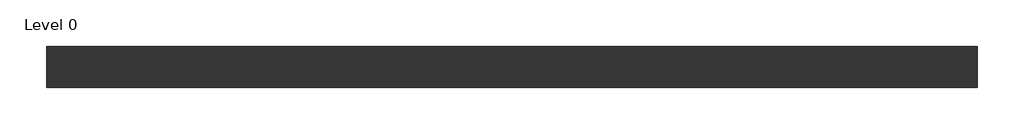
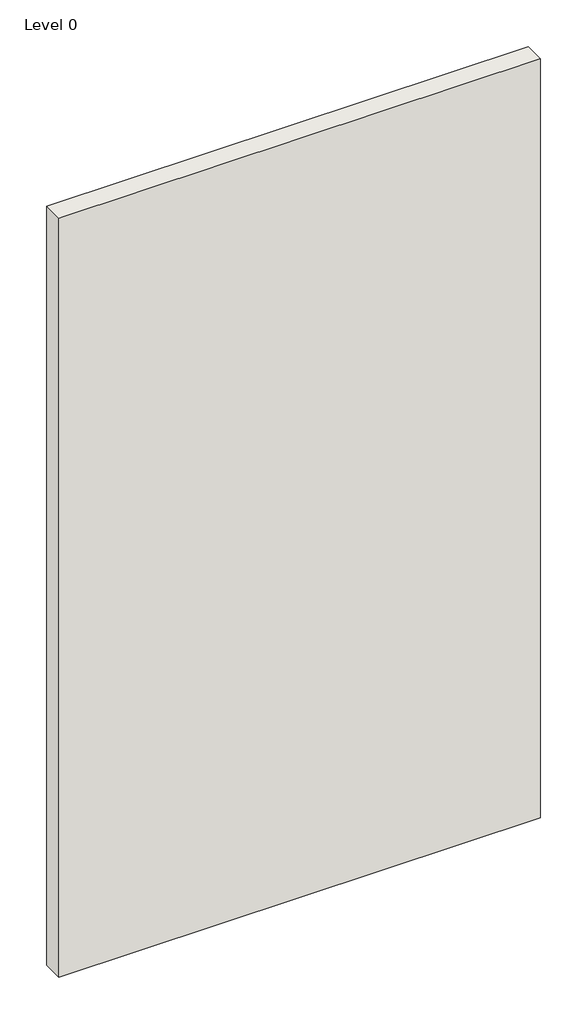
# One storey: 1 wall.
"""IFC4 building model written with IfcOpenShell, lengths in millimetres."""

import ifcopenshell
import ifcopenshell.guid

model = None  # the IFC model being written
_history = None  # IfcOwnerHistory: only IFC2X3 demands one
_inside = {}  # id of a spatial element -> (the spatial element, [elements in it])
_under = {}  # id of a project, library or spatial element -> (it, [spatial elements below it])
_declared = {}  # id of a project -> (the project, [libraries it declares])
_typed = {}  # id of a type object -> (the type object, [elements of that type])
_made_of = {}  # id of a material, layer set ... -> (it, [elements and type objects made of it])


def new_model(schema):
    """Start an empty IFC model of exactly this schema.

    Asked for "IFC4X3", IfcOpenShell would pick the latest addendum, in which some entities
    have other attributes; the version numbers below select the first issue.
    IFC2X3 requires an IfcOwnerHistory on every rooted entity: one is made here for all.
    """
    global model, _history
    if schema == "IFC4X3":
        model = ifcopenshell.file(schema_version=(4, 3, 0, 0))
    else:
        model = ifcopenshell.file(schema=schema)
    _inside.clear()
    _under.clear()
    _declared.clear()
    _typed.clear()
    _made_of.clear()
    _history = None
    if model.schema == "IFC2X3":
        org = make("IfcOrganization", Name="unknown")
        user = make(
            "IfcPersonAndOrganization",
            ThePerson=make("IfcPerson", FamilyName="unknown"),
            TheOrganization=org,
        )
        app = make(
            "IfcApplication",
            ApplicationDeveloper=org,
            Version="unknown",
            ApplicationFullName="unknown",
            ApplicationIdentifier="unknown",
        )
        _history = make(
            "IfcOwnerHistory",
            OwningUser=user,
            OwningApplication=app,
            ChangeAction="ADDED",
            CreationDate=0,
        )
    return model


def make(cls, **values):
    """One entity of the class cls with the attributes given. An attribute that is None is left unset."""
    return model.create_entity(
        cls, **{name: value for name, value in values.items() if value is not None}
    )


def rooted(cls, **values):
    """An entity with a GlobalId (a new one), such as an element, a storey or a relation."""
    return make(cls, GlobalId=ifcopenshell.guid.new(), OwnerHistory=_history, **values)


def si_unit(unit_type, name, prefix=None):
    """IfcSIUnit, for example si_unit("LENGTHUNIT", "METRE", prefix="MILLI")."""
    return make("IfcSIUnit", UnitType=unit_type, Prefix=prefix, Name=name)


def assignment(units):
    """IfcUnitAssignment: the units of a project."""
    return None if units is None else make("IfcUnitAssignment", Units=units)


def point(xyz):
    """IfcCartesianPoint."""
    return None if xyz is None else make("IfcCartesianPoint", Coordinates=xyz)


def direction(xyz):
    """IfcDirection."""
    return None if xyz is None else make("IfcDirection", DirectionRatios=xyz)


def frame(location, z_axis=None, x_axis=None):
    """IfcAxis2Placement3D, a coordinate frame: its origin and axes. An axis left out is left unset."""
    return make(
        "IfcAxis2Placement3D",
        Location=point(location),
        Axis=direction(z_axis),
        RefDirection=direction(x_axis),
    )


def origin():
    """The frame at (0, 0, 0) with its axes left unset."""
    return frame((0.0, 0.0, 0.0))


def origin_with_axes():
    """The frame at (0, 0, 0) with the z axis (0, 0, 1) and the x axis (1, 0, 0) written out."""
    return frame((0.0, 0.0, 0.0), z_axis=(0.0, 0.0, 1.0), x_axis=(1.0, 0.0, 0.0))


def place(relative_to, where):
    """IfcLocalPlacement: puts the frame where relative to a parent placement (None: the world)."""
    return make(
        "IfcLocalPlacement", PlacementRelTo=relative_to, RelativePlacement=where
    )


def context(
    kind, dimensions, precision=None, world=None, true_north=None, identifier=None
):
    """IfcGeometricRepresentationContext, for example the 3D "Model" context."""
    return make(
        "IfcGeometricRepresentationContext",
        ContextIdentifier=identifier,
        ContextType=kind,
        CoordinateSpaceDimension=dimensions,
        Precision=precision,
        WorldCoordinateSystem=world,
        TrueNorth=true_north,
    )


def project(units=None, contexts=None):
    """IfcProject with its units and contexts."""
    return rooted(
        "IfcProject",
        Name="project",
        RepresentationContexts=contexts,
        UnitsInContext=assignment(units),
    )


def spatial(cls, under=None, at=None, **own):
    """A site, building, storey or space (cls), placed at a placement, below another one or the project."""
    s = rooted(cls, ObjectPlacement=at, **own)
    if under is not None:
        _under.setdefault(under.id(), (under, []))[1].append(s)
    return s


def polyline(points):
    """IfcPolyline through the points."""
    return make("IfcPolyline", Points=[point(p) for p in points])


def outline(outer, holes=None, kind="AREA"):
    """IfcArbitraryClosedProfileDef: a profile drawn as a closed curve; with holes, ...WithVoids."""
    if holes is None:
        return make("IfcArbitraryClosedProfileDef", ProfileType=kind, OuterCurve=outer)
    return make(
        "IfcArbitraryProfileDefWithVoids",
        ProfileType=kind,
        OuterCurve=outer,
        InnerCurves=holes,
    )


def extrude(swept, where, along, depth):
    """IfcExtrudedAreaSolid: the profile swept, set in the frame where, extruded along a direction by depth."""
    return make(
        "IfcExtrudedAreaSolid",
        SweptArea=swept,
        Position=where,
        ExtrudedDirection=direction(along),
        Depth=depth,
    )


def shape(context_of_items, identifier, shape_type, items):
    """IfcShapeRepresentation: the items that make up one representation, for example the "Body"."""
    return make(
        "IfcShapeRepresentation",
        ContextOfItems=context_of_items,
        RepresentationIdentifier=identifier,
        RepresentationType=shape_type,
        Items=items,
    )


def made_of(thing, what):
    """Note that an element or type object is made of a material, layer set ...; save() writes the relation."""
    if what is not None:
        _made_of.setdefault(what.id(), (what, []))[1].append(thing)
    return thing


def element(
    cls,
    number,
    at=None,
    inside=None,
    cuts=None,
    type_object=None,
    material=None,
    context=None,
    identifier="Body",
    shape_type=None,
    held_by="IfcProductDefinitionShape",
    body=None,
    shapes=None,
    **own,
):
    """One element of the class cls, such as IfcWall. Its Tag is "e" and its number.

    at: its placement. inside: the storey or other place that contains it. cuts: it is an
    opening in that element (IfcRelVoidsElement). A single representation is given by context,
    identifier, shape_type and body (its items); several are given by shapes. held_by: the class
    of the entity that holds the representations. save() writes the other relations.
    """
    e = rooted(cls, Tag="e%d" % number, ObjectPlacement=at, **own)
    if body is not None:
        shapes = [shape(context, identifier, shape_type, body)]
    if shapes is not None:
        e.Representation = make(held_by, Representations=shapes)
    if inside is not None:
        _inside.setdefault(inside.id(), (inside, []))[1].append(e)
    if cuts is not None:
        rooted(
            "IfcRelVoidsElement", RelatingBuildingElement=cuts, RelatedOpeningElement=e
        )
    if type_object is not None:
        _typed.setdefault(type_object.id(), (type_object, []))[1].append(e)
    return made_of(e, material)


def aggregate(whole, parts):
    """IfcRelAggregates: a whole, such as a stair, and the parts it consists of."""
    return rooted("IfcRelAggregates", RelatingObject=whole, RelatedObjects=parts)


def save(model, path):
    """Write the relations noted so far, then the file.

    IfcRelAggregates (storeys below a building ...), IfcRelContainedInSpatialStructure (elements
    in a storey), IfcRelDefinesByType, IfcRelAssociatesMaterial and IfcRelDeclares: one each for
    every whole, place, type object, material and project.
    """
    for whole, parts in _under.values():
        aggregate(whole, parts)
    for where, things in _inside.values():
        rooted(
            "IfcRelContainedInSpatialStructure",
            RelatedElements=things,
            RelatingStructure=where,
        )
    for kind, things in _typed.values():
        rooted("IfcRelDefinesByType", RelatedObjects=things, RelatingType=kind)
    for what, things in _made_of.values():
        rooted("IfcRelAssociatesMaterial", RelatedObjects=things, RelatingMaterial=what)
    for by, libraries in _declared.values():
        rooted("IfcRelDeclares", RelatingContext=by, RelatedDefinitions=libraries)
    model.write(path)


model = new_model("IFC4")

# Units and contexts
model_context = context("Model", 3, world=origin())
ifc_project = project(units=[si_unit("LENGTHUNIT", "METRE", prefix="MILLI")], contexts=[model_context])

# Site, building, storey
site = spatial("IfcSite", under=ifc_project)
building = spatial("IfcBuilding", under=site)
storey = spatial("IfcBuildingStorey", under=building, Name="Level 0", Elevation=0.0)

# Wall
placement = place(None, origin())
element("IfcWall", 1, ObjectType="A206A167 - GypWall CLASSIC_Generic", at=placement, inside=storey, context=model_context, shape_type="SweptSolid", body=[
    extrude(outline(polyline([(2116.0807354, 527.7205641), (-883.9192646, 527.7205641), (-883.9192646, 659.7205641), (2116.0807354, 659.7205641), (2116.0807354, 527.7205641)])), origin_with_axes(), (0.0, 0.0, 1.0), 5000.0),
])

save(model, "model.ifc")
